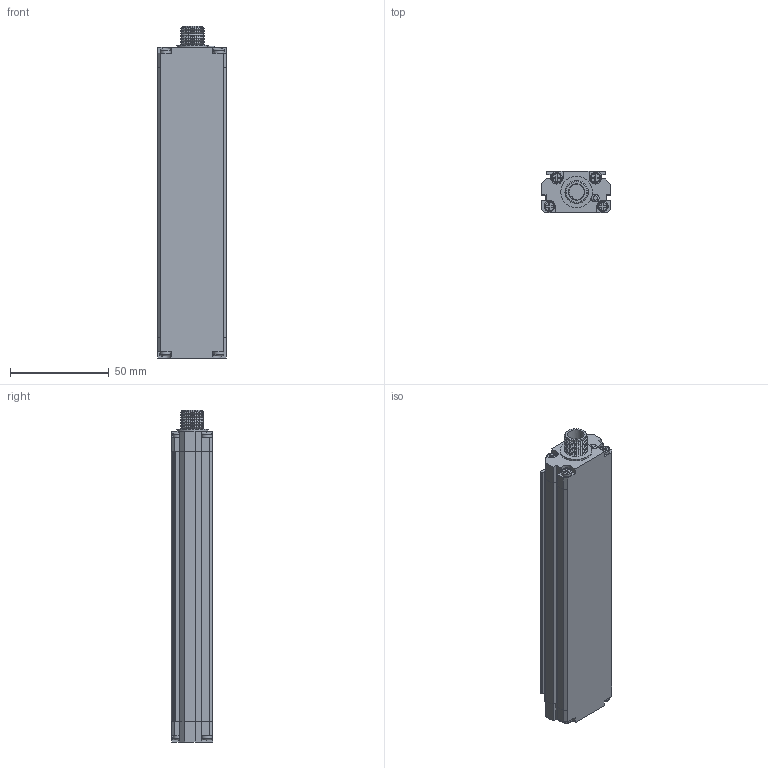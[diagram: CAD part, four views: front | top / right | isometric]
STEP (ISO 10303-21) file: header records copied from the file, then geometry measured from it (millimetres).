
FILE_DESCRIPTION((''),'2;1');
FILE_NAME('C:\TurckZip\LT0E-Q21-LU0X3-H1141.stp','2008-04-22T09:07:48',('IKOROL'),(''),'Autodesk Inventor 2008','Autodesk Inventor 2008','');
FILE_SCHEMA(('CONFIG_CONTROL_DESIGN'));
Length unit declared in the file: millimetre
Products named in the file (1): Part1
Bounding box: 34.8 x 20.9 x 168.24 mm (x, y, z)
Volume: 105705.7 mm3; surface area: 22467 mm2
Topology: 3 solids, 3 shells, 301 faces, 761 edges, 489 vertices
Faces by surface type: plane 201, cylinder 65, cone 22, torus 10, bspline 3
Full cylindrical faces by diameter (mm): 3 x1, 5.39 x8, 8 x1, 8.3 x1, 9 x1, 9.4 x1, 9.9 x1, 10 x1, 10.5 x1, 10.982 x1, 16 x1
Entity records: 9137 total; most frequent: CARTESIAN_POINT 1665, DIRECTION 1467, ORIENTED_EDGE 1408, EDGE_CURVE 704, VECTOR 531, LINE 531, VERTEX_POINT 484, AXIS2_PLACEMENT_3D 468
